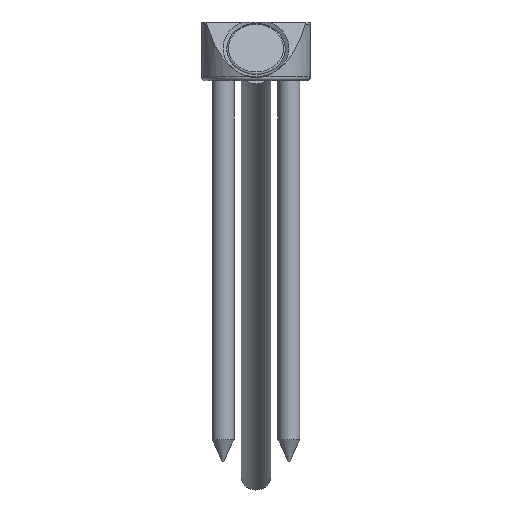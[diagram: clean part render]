
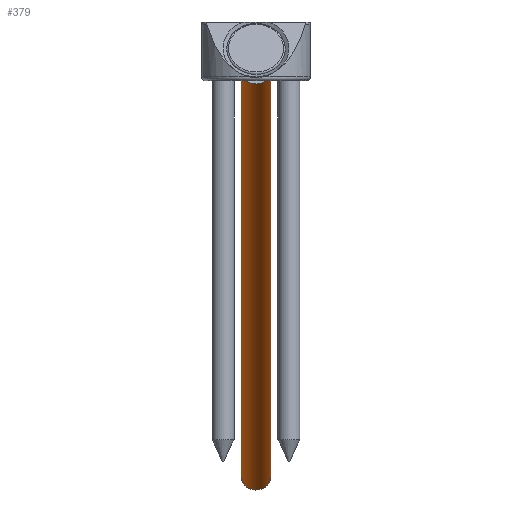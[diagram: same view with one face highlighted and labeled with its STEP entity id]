
A CAD part, front view. The second image highlights one B-rep face of the part: STEP entity #379.
In plain terms, the highlighted cylindrical face has radius 4 mm (diameter 8 mm), a full revolution.
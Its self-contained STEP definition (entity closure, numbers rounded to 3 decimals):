
#60=CYLINDRICAL_SURFACE('',#469,4.);
#150=ORIENTED_EDGE('',*,*,#191,.T.);
#151=ORIENTED_EDGE('',*,*,#190,.F.);
#190=EDGE_CURVE('',#222,#222,#250,.T.);
#191=EDGE_CURVE('',#223,#223,#251,.T.);
#222=VERTEX_POINT('',#732);
#223=VERTEX_POINT('',#735);
#250=CIRCLE('',#468,4.);
#251=CIRCLE('',#470,4.);
#296=EDGE_LOOP('',(#150));
#297=EDGE_LOOP('',(#151));
#343=FACE_BOUND('',#296,.T.);
#344=FACE_BOUND('',#297,.T.);
#379=ADVANCED_FACE('',(#343,#344),#60,.T.);
#468=AXIS2_PLACEMENT_3D('',#731,#589,#590);
#469=AXIS2_PLACEMENT_3D('',#733,#591,#592);
#470=AXIS2_PLACEMENT_3D('',#734,#593,#594);
#589=DIRECTION('',(0.,0.,1.));
#590=DIRECTION('',(1.,0.,0.));
#591=DIRECTION('',(0.,0.,1.));
#592=DIRECTION('',(1.,0.,0.));
#593=DIRECTION('',(0.,0.,1.));
#594=DIRECTION('',(1.,0.,0.));
#731=CARTESIAN_POINT('',(0.,0.,36.591));
#732=CARTESIAN_POINT('',(4.,0.,36.591));
#733=CARTESIAN_POINT('',(0.,0.,49.205));
#734=CARTESIAN_POINT('',(0.,0.,-185.052));
#735=CARTESIAN_POINT('',(4.,0.,-185.052));
